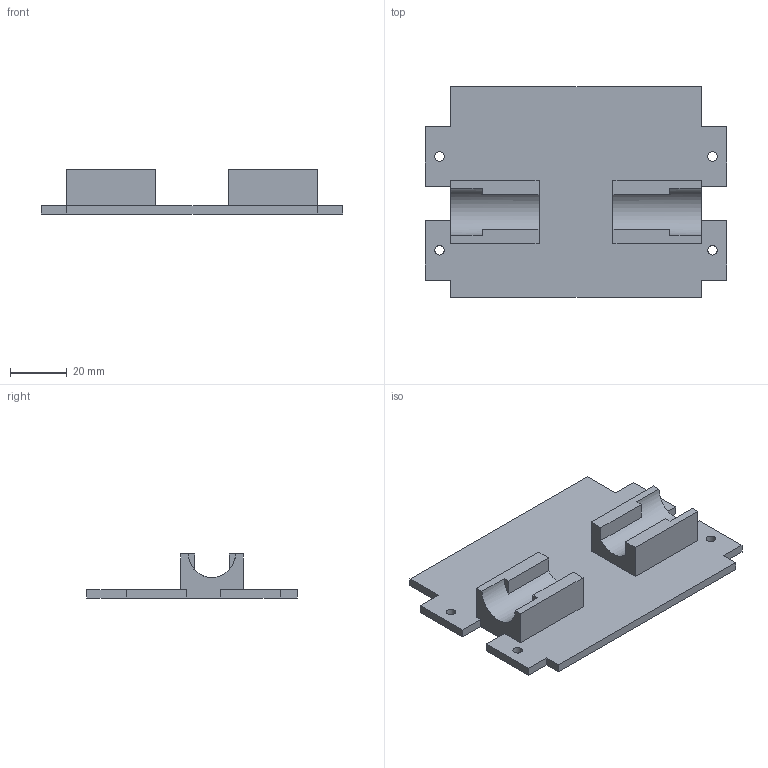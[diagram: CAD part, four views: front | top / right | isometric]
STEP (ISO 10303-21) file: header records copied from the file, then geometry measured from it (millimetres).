
FILE_DESCRIPTION(/* description */ (''),/* implementation_level */ '2;1');
FILE_NAME(/* name */ 'base.step',/* time_stamp */ '2026-03-08T22:57:25+01:00',/* author */ (''),/* organization */ (''),/* preprocessor_version */ 'ST-DEVELOPER v20.1',/* originating_system */ 'Autodesk Translation Framework v14.24.0.0',/* authorisation */ '');
FILE_SCHEMA (('AUTOMOTIVE_DESIGN { 1 0 10303 214 3 1 1 }'));
Length unit declared in the file: millimetre
Products named in the file (1): Flanders (v3~recovered)
Bounding box: 106 x 74 x 15.5 mm (x, y, z)
Volume: 32778.4 mm3; surface area: 18780.7 mm2
Topology: 1 solids, 1 shells, 46 faces, 132 edges, 88 vertices
Faces by surface type: plane 40, cylinder 6
Full cylindrical faces by diameter (mm): 3.3 x4
Entity records: 1565 total; most frequent: CARTESIAN_POINT 267, ORIENTED_EDGE 264, DIRECTION 242, EDGE_CURVE 132, LINE 116, VECTOR 116, VERTEX_POINT 88, AXIS2_PLACEMENT_3D 63
